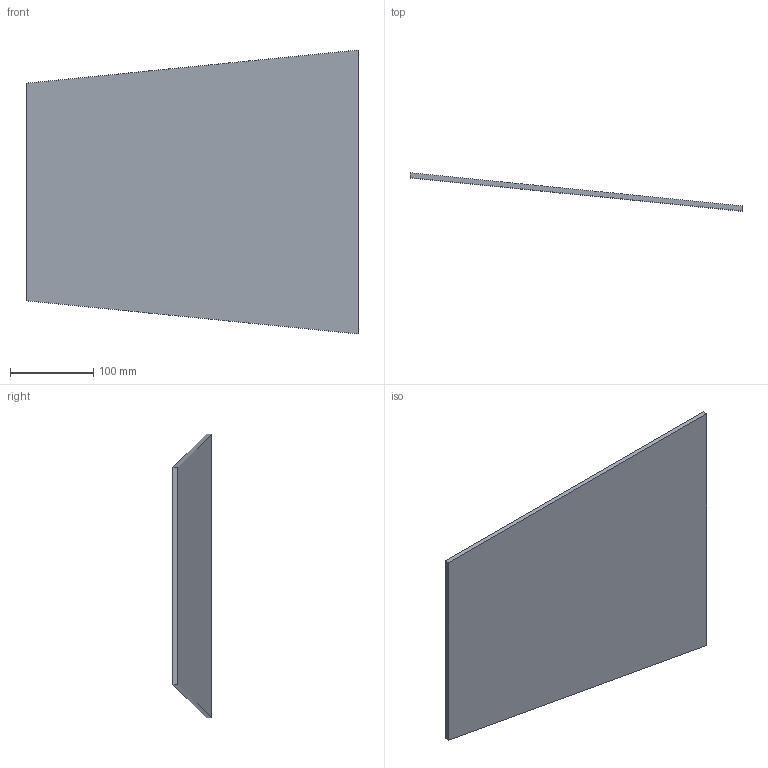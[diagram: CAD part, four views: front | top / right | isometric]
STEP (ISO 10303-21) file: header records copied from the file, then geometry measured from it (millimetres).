
FILE_DESCRIPTION(('Open CASCADE Model'),'2;1');
FILE_NAME('Open CASCADE Shape Model','2026-10-16T18:03:45',('Author'),( 'Open CASCADE'),'Open CASCADE STEP processor 7.8','Open CASCADE 7.8' ,'Unknown');
FILE_SCHEMA(('AUTOMOTIVE_DESIGN { 1 0 10303 214 1 1 1 1 }'));
Length unit declared in the file: millimetre
Products named in the file (1): Open CASCADE STEP translator 7.8 26
Bounding box: 400 x 46 x 342 mm (x, y, z)
Volume: 724800 mm3; surface area: 251252.9 mm2
Topology: 1 solids, 1 shells, 6 faces, 12 edges, 8 vertices
Faces by surface type: plane 6
Entity records: 322 total; most frequent: CARTESIAN_POINT 51, DIRECTION 50, LINE 36, VECTOR 36, ORIENTED_EDGE 24, PCURVE 24, DEFINITIONAL_REPRESENTATION 24, EDGE_CURVE 12
